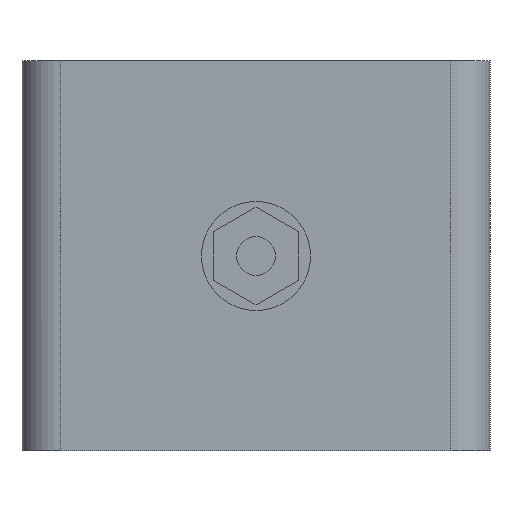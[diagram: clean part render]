
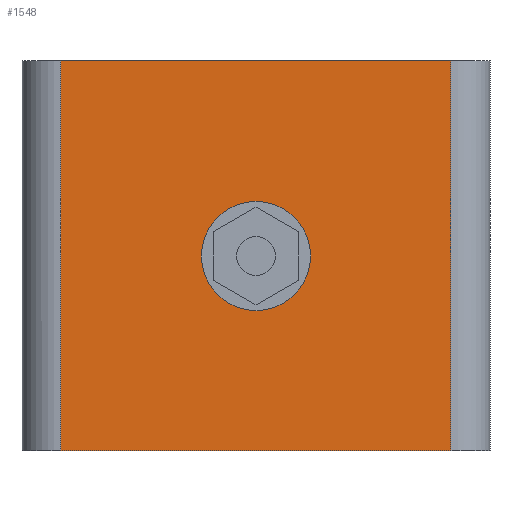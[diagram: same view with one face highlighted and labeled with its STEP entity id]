
A CAD part, front view. The second image highlights one B-rep face of the part: STEP entity #1548.
In plain terms, the highlighted planar face has unit normal (0, -1, 0).
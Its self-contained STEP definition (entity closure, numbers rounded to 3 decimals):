
#49=FACE_BOUND('',#605,.T.);
#97=PLANE('',#1731);
#215=LINE('',#4860,#337);
#216=LINE('',#4863,#338);
#217=LINE('',#4865,#339);
#218=LINE('',#4866,#340);
#337=VECTOR('',#2195,10.);
#338=VECTOR('',#2198,10.);
#339=VECTOR('',#2199,10.);
#340=VECTOR('',#2200,10.);
#476=FACE_OUTER_BOUND('',#604,.T.);
#604=EDGE_LOOP('',(#1392,#1393,#1394,#1395));
#605=EDGE_LOOP('',(#1396));
#673=CIRCLE('',#1689,14.);
#768=VERTEX_POINT('',#4713);
#815=VERTEX_POINT('',#4856);
#816=VERTEX_POINT('',#4858);
#817=VERTEX_POINT('',#4862);
#818=VERTEX_POINT('',#4864);
#944=EDGE_CURVE('',#768,#768,#673,.T.);
#1015=EDGE_CURVE('',#815,#816,#215,.T.);
#1016=EDGE_CURVE('',#815,#817,#216,.T.);
#1017=EDGE_CURVE('',#818,#816,#217,.T.);
#1018=EDGE_CURVE('',#817,#818,#218,.T.);
#1392=ORIENTED_EDGE('',*,*,#1016,.F.);
#1393=ORIENTED_EDGE('',*,*,#1015,.T.);
#1394=ORIENTED_EDGE('',*,*,#1017,.F.);
#1395=ORIENTED_EDGE('',*,*,#1018,.F.);
#1396=ORIENTED_EDGE('',*,*,#944,.T.);
#1548=ADVANCED_FACE('',(#476,#49),#97,.T.);
#1689=AXIS2_PLACEMENT_3D('',#4714,#2055,#2056);
#1731=AXIS2_PLACEMENT_3D('',#4861,#2196,#2197);
#2055=DIRECTION('center_axis',(0.,1.,0.));
#2056=DIRECTION('ref_axis',(-1.,0.,0.));
#2195=DIRECTION('',(0.,0.,1.));
#2196=DIRECTION('center_axis',(0.,-1.,0.));
#2197=DIRECTION('ref_axis',(1.,0.,0.));
#2198=DIRECTION('',(-1.,0.,0.));
#2199=DIRECTION('',(1.,0.,0.));
#2200=DIRECTION('',(0.,0.,1.));
#4713=CARTESIAN_POINT('',(74.,0.,50.));
#4714=CARTESIAN_POINT('Origin',(60.,0.,50.));
#4856=CARTESIAN_POINT('',(110.,0.,0.));
#4858=CARTESIAN_POINT('',(110.,0.,100.));
#4860=CARTESIAN_POINT('',(110.,0.,0.));
#4861=CARTESIAN_POINT('Origin',(10.,0.,0.));
#4862=CARTESIAN_POINT('',(10.,0.,0.));
#4863=CARTESIAN_POINT('',(110.,0.,0.));
#4864=CARTESIAN_POINT('',(10.,0.,100.));
#4865=CARTESIAN_POINT('',(110.,0.,100.));
#4866=CARTESIAN_POINT('',(10.,0.,0.));
